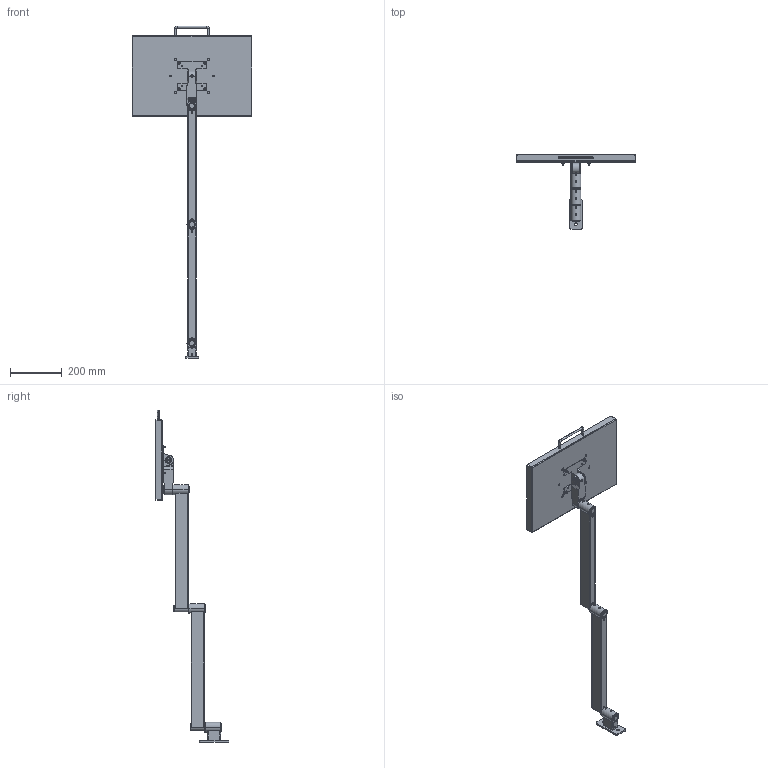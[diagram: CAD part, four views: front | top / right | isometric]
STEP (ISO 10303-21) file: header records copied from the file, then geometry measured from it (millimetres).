
FILE_DESCRIPTION (( 'STEP AP203' ), '1' );
FILE_NAME ('70-0701-00 REV AA, 36in RIGID SYSTEM, TILTING TRAY, WALL MOUNT - FLAT.STEP', '2025-07-21T23:53:31', ( '' ), ( '' ), 'SwSTEP 2.0', 'SolidWorks 2025', '' );
FILE_SCHEMA (( 'CONFIG_CONTROL_DESIGN' ));
Length unit declared in the file: inch
Products named in the file (29): 11-0028-RX REV AA, PLASTIC DISC, VESA; 70-1018-00 REV AA, 18in RIGID SECTION; 002-088-00, FHSCS 10-32 x .5L, BO_002-088-00; 010-012-00, RETAINING RING, EXTERNAL, .875in SHAFT; 002-090-00, FHSCS 10-32 x .625L_002-090-00; 016-008-00, OILITE PLUS BEARING, 0.876 id x 1.002 od x 1.25 lg; 71-0090-RX REV AA, HOUSING, MOUNT; 70-0018-00 REV AA, MICRO HD WALL MOUNT; 11-0401-00 REV AA, 18x12 TOOL TRAY, BLACK; 71-0218-RX REV AA, PLATE, MICRO HD, 4.5 x 2.0 x .25_Laser; 71-1061-RX REV AA, BODY, VESA, RAW_MACHINE; 41-0063-RX REV AA, PIN, TILT, VESA; 70-0701-00 REV AA, 36in RIGID SYSTEM, TILTING TRAY, WALL MOUNT - FLAT; 70-0048-RX REV AA, CONNECTOR PIN, 875OD x 3.9; 002-100-00, BHSCS, 8-32x.375_002-100-00; 11-0062-BLKX REV AA, BRACKET, VESA, SHEETMETAL, BLACK; 025-067-00, HANDLE, U SHAPED, 8-32; 11-0450-00 REV AA, FOAM, YELLOW, 18x12; 006-008-00, NUT, HEX, 10-32 x .125_006-008-00; 70-0402-00 REV AA, 18x12 TILTING TOOL TRAY ASSEMBLY; 71-0022-RX REV AA, PIN, RIGID SECTION; 70-0060-00 REV AA, VESA ATTACHMENT; 016-007-00, OILITE PLUS BEARING, 0.876 id x 1.002 od x 0.75 lg; 71-2113-RX REV AA, HOUSING, BEARING, TALL, 1.5OD_MACHINE; 016-012-00, OILITE PLUS BEARING, .876 IDx1.0 OD x 1.0; 007-036-00, SHSS, 1''4-28, .25L_007-036-00; 70-0048-00 REV AA, CONNECTOR PIN ASSEMBLY, .875OD x 3.9; 71-1018-RX REV AA, HOUSING, 18in RIGID; 007-034-00, SHSS, .375-24, .25L_007-034-00
Assembly tree (48 placements, depth 4):
  70-0701-00 REV AA, 36in RIGID SYSTEM, TILTING TRAY, WALL MOUNT - FLAT
    70-0018-00 REV AA, MICRO HD WALL MOUNT
      71-0218-RX REV AA, PLATE, MICRO HD, 4.5 x 2.0 x .25_Laser
      71-0090-RX REV AA, HOUSING, MOUNT
      71-2113-RX REV AA, HOUSING, BEARING, TALL, 1.5OD_MACHINE
      016-007-00, OILITE PLUS BEARING, 0.876 id x 1.002 od x 0.75 lg
      016-008-00, OILITE PLUS BEARING, 0.876 id x 1.002 od x 1.25 lg
      007-036-00, SHSS, 1''4-28, .25L_007-036-00
    70-1018-00 REV AA, 18in RIGID SECTION  x2
      71-1018-RX REV AA, HOUSING, 18in RIGID
      71-0022-RX REV AA, PIN, RIGID SECTION
      71-2113-RX REV AA, HOUSING, BEARING, TALL, 1.5OD_MACHINE
      016-007-00, OILITE PLUS BEARING, 0.876 id x 1.002 od x 0.75 lg
      016-008-00, OILITE PLUS BEARING, 0.876 id x 1.002 od x 1.25 lg
      010-012-00, RETAINING RING, EXTERNAL, .875in SHAFT
      007-036-00, SHSS, 1''4-28, .25L_007-036-00
    70-0048-00 REV AA, CONNECTOR PIN ASSEMBLY, .875OD x 3.9
      70-0048-RX REV AA, CONNECTOR PIN, 875OD x 3.9
      010-012-00, RETAINING RING, EXTERNAL, .875in SHAFT  x2
    70-0402-00 REV AA, 18x12 TILTING TOOL TRAY ASSEMBLY
      70-0060-00 REV AA, VESA ATTACHMENT
        71-1061-RX REV AA, BODY, VESA, RAW_MACHINE
        016-008-00, OILITE PLUS BEARING, 0.876 id x 1.002 od x 1.25 lg
        016-012-00, OILITE PLUS BEARING, .876 IDx1.0 OD x 1.0
        007-034-00, SHSS, .375-24, .25L_007-034-00
        41-0063-RX REV AA, PIN, TILT, VESA
        11-0028-RX REV AA, PLASTIC DISC, VESA  x2
        11-0062-BLKX REV AA, BRACKET, VESA, SHEETMETAL, BLACK
        002-088-00, FHSCS 10-32 x .5L, BO_002-088-00  x4
        007-036-00, SHSS, 1''4-28, .25L_007-036-00
      11-0401-00 REV AA, 18x12 TOOL TRAY, BLACK
      025-067-00, HANDLE, U SHAPED, 8-32
      11-0450-00 REV AA, FOAM, YELLOW, 18x12
      002-100-00, BHSCS, 8-32x.375_002-100-00  x2
      002-090-00, FHSCS 10-32 x .625L_002-090-00  x4
      006-008-00, NUT, HEX, 10-32 x .125_006-008-00  x4
Bounding box: 461.77 x 283.71 x 1278.89 mm (x, y, z)
Volume: 1674487.1 mm3; surface area: 1117852.7 mm2
Topology: 49 solids, 49 shells, 1870 faces, 4603 edges, 2831 vertices
Faces by surface type: cylinder 929, cone 412, plane 364, torus 112, bspline 49, sphere 4
Entity records: 35917 total; most frequent: CARTESIAN_POINT 14008, ORIENTED_EDGE 3868, DIRECTION 3831, EDGE_CURVE 1934, AXIS2_PLACEMENT_3D 1514, VERTEX_POINT 1198, EDGE_LOOP 906, VECTOR 803
